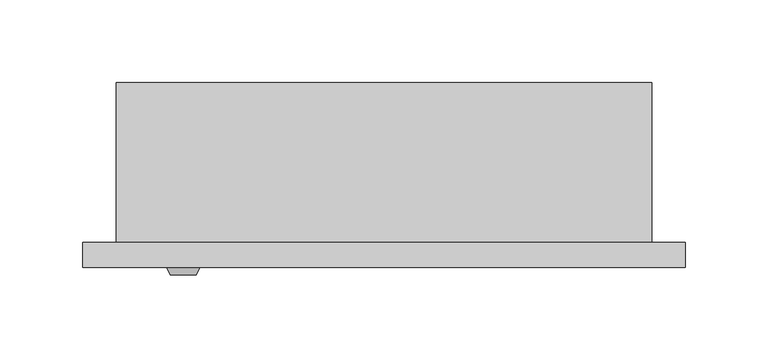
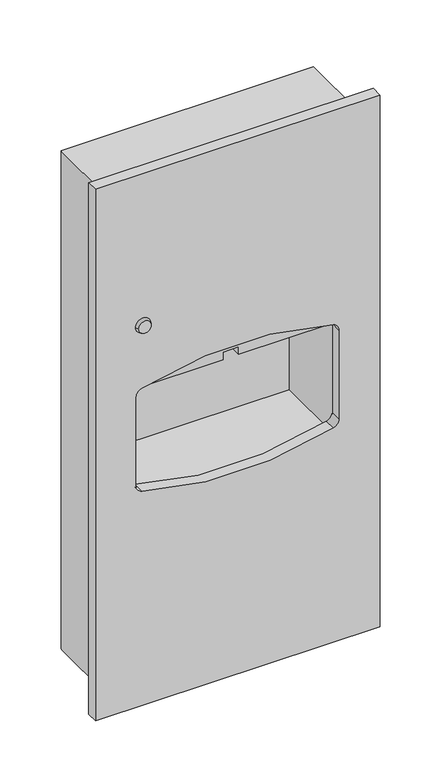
"""IFC4 building model written with IfcOpenShell, lengths in millimetres: proxy geometry, Paper Dispenser and Waste_Metlam_Recessed_6.5L Waste : 365w x 112d x 720h (ML710_RECMK2)."""

from ifc_helpers import new_model, si_unit, point, frame, frame_2d, origin, place, context, project, spatial, polyline, circle_curve, trimmed, segment, composite_curve, outline, extrude, faceted_brep, source, transform, mapped, element, save
from ifc_brep_helpers import plane_surface, revolved_surface, advanced_brep


def specialty_equipment_7ed3570a(model_context):
    return source(origin(), model_context, "Body", "SolidModel", [
        extrude(outline(polyline([(1379.1, 131.6), (1379.1, -131.6), (1200.9, -131.6), (1200.9, 131.6), (1379.1, 131.6)]), holes=[polyline([(1377.5, 130.0), (1202.5, 130.0), (1202.5, -130.0), (1377.5, -130.0), (1377.5, 130.0)])]), frame((0.0, -97.0, 0.0), z_axis=(0.0, 1.0, 0.0), x_axis=(0.0, 0.0, 1.0)), (0.0, 0.0, 1.0), 95.0),
        extrude(outline(polyline([(1377.5, 130.0), (1377.5, -130.0), (1350.1002962, -130.0), (1350.1002962, -10.0), (1360.1002962, -10.0), (1360.1002962, 10.0), (1350.1002962, 10.0), (1350.1002962, 130.0), (1377.5, 130.0)])), frame((0.0, -97.0, 0.0), z_axis=(0.0, 1.0, 0.0), x_axis=(0.0, 0.0, 1.0)), (0.0, 0.0, 1.0), 15.0),
        extrude(outline(polyline([(930.0, 182.5), (1650.0, 182.5), (1650.0, -182.5), (930.0, -182.5), (930.0, 182.5)]), holes=[composite_curve([segment(trimmed(circle_curve(frame_2d((1350.1002962, 120.0)), 10.0), [point((1359.6884689, 122.8402367))], [point((1350.1002962, 130.0))], True, "CARTESIAN"), True, "CONTINUOUS"), segment(polyline([(1350.1002962, 130.0), (1229.8997038, 130.0)]), True, "CONTINUOUS"), segment(trimmed(circle_curve(frame_2d((1229.8997038, 120.0)), 10.0), [point((1229.8997038, 130.0))], [point((1220.3115311, 122.8402367))], True, "CARTESIAN"), True, "CONTINUOUS"), segment(trimmed(circle_curve(frame_2d((1635.0, 0.0)), 432.5), [point((1220.3115311, 122.8402367))], [point((1220.3115311, -122.8402367))], True, "CARTESIAN"), True, "CONTINUOUS"), segment(trimmed(circle_curve(frame_2d((1229.8997038, -120.0)), 10.0), [point((1220.3115311, -122.8402367))], [point((1229.8997038, -130.0))], True, "CARTESIAN"), True, "CONTINUOUS"), segment(polyline([(1229.8997038, -130.0), (1350.1002962, -130.0)]), True, "CONTINUOUS"), segment(trimmed(circle_curve(frame_2d((1350.1002962, -120.0)), 10.0), [point((1350.1002962, -130.0))], [point((1359.6884689, -122.8402367))], True, "CARTESIAN"), True, "CONTINUOUS"), segment(trimmed(circle_curve(frame_2d((945.0, 0.0)), 432.5), [point((1359.6884689, -122.8402367))], [point((1359.6884689, 122.8402367))], True, "CARTESIAN"), True, "CONTINUOUS")], self_intersect=False)]), frame((0.0, -112.0, 0.0), z_axis=(0.0, 1.0, 0.0), x_axis=(0.0, 0.0, 1.0)), (0.0, 0.0, 1.0), 15.0),
        faceted_brep([(-162.0, -97.0, 1627.5), (-162.0, -97.0, 952.5), (162.0, -97.0, 952.5), (162.0, -97.0, 1627.5), (-160.0, -97.0, 1625.5), (160.0, -97.0, 1625.5), (160.0, -97.0, 954.5), (-160.0, -97.0, 954.5), (-162.0, 0.0, 1627.5), (162.0, 0.0, 1627.5), (162.0, 0.0, 952.5), (-162.0, 0.0, 952.5), (-162.0, -2.0, 1627.5), (-162.0, -2.0, 952.5), (162.0, -2.0, 952.5), (162.0, -2.0, 1627.5), (-160.0, -2.0, 1625.5), (160.0, -2.0, 1625.5), (160.0, -2.0, 954.5), (-160.0, -2.0, 954.5)], [[[0, 1, 2, 3], [4, 5, 6, 7]], [[8, 9, 10, 11]], [[1, 0, 12, 8, 11, 13]], [[2, 1, 13, 11, 10, 14]], [[3, 2, 14, 10, 9, 15]], [[0, 3, 15, 9, 8, 12]], [[5, 4, 16, 17]], [[6, 5, 17, 18]], [[7, 6, 18, 19]], [[4, 7, 19, 16]], [[17, 16, 19, 18]]]),
        advanced_brep(
        [(-129.5369825, -116.649141, 1445.0972849), (-113.5369825, -116.649141, 1445.0972849), (-131.5369825, -112.0, 1445.0972849), (-111.5369825, -112.0, 1445.0972849)],
        [
            (0, 1, circle_curve(frame((-121.5369825, -116.649141, 1445.0972849), z_axis=(0.0, -1.0, 0.0), x_axis=(-1.0, 0.0, 0.0)), 8.0)),
            (1, 0, circle_curve(frame((-121.5369825, -116.649141, 1445.0972849), z_axis=(0.0, -1.0, 0.0), x_axis=(1.0, 0.0, 0.0)), 8.0)),
            (2, 3, circle_curve(frame((-121.5369825, -112.0, 1445.0972849), z_axis=(0.0, 1.0, 0.0), x_axis=(1.0, 0.0, 0.0)), 10.0)),
            (3, 2, circle_curve(frame((-121.5369825, -112.0, 1445.0972849), z_axis=(0.0, 1.0, 0.0), x_axis=(-1.0, 0.0, 0.0)), 10.0)),
            (3, 1),
            (0, 2),
        ],
        [
            plane_surface(frame((-121.5369825, -116.649141, 1445.0972849), z_axis=(0.0, -1.0, 0.0), x_axis=(0.0, 0.0, -1.0))),
            plane_surface(frame((-121.5369825, -112.0, 1445.0972849), z_axis=(0.0, 1.0, 0.0), x_axis=(0.0, 0.0, -1.0))),
            revolved_surface(polyline([(-129.53698248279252, -116.649141, 1445.0972849), (-131.5369825, -112.0, 1445.0972849)]), (-121.5369825, -135.2457048, 1445.0972849), (0.0, 1.0, 0.0)),
            revolved_surface(polyline([(-113.53698251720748, -116.649141, 1445.0972849), (-111.5369825, -112.0, 1445.0972849)]), (-121.5369825, -135.2457048, 1445.0972849), (0.0, 1.0, 0.0)),
        ],
        [
            (0, [[1, 2]]),
            (1, [[3, 4]]),
            (2, [[-4, 5, -1, 6]]),
            (3, [[-3, -6, -2, -5]]),
        ],
    ),
    ])


if __name__ == "__main__":
    model = new_model("IFC4")
    model_context = context("Model", 3, world=origin())
    ifc_project = project(units=[si_unit("LENGTHUNIT", "METRE", prefix="MILLI")], contexts=[model_context])
    site = spatial("IfcSite", under=ifc_project)
    building = spatial("IfcBuilding", under=site)
    placement = place(None, origin())
    specialty_equipment_shape = specialty_equipment_7ed3570a(model_context)
    element("IfcBuildingElementProxy", 1, Name="Paper Dispenser and Waste_Metlam_Recessed_6.5L Waste : 365w x 112d x 720h (ML710_RECMK2)", ObjectType="Paper Dispenser and Waste_Metlam_Recessed_6.5L Waste : 365w x 112d x 720h (ML710_RECMK2)", at=placement, inside=building, context=model_context, shape_type="MappedRepresentation", body=[
        mapped(specialty_equipment_shape, transform((0.0, 0.0, 0.0), x_axis=(1.0, 0.0, 0.0), y_axis=(0.0, 1.0, 0.0), z_axis=(0.0, 0.0, 1.0))),
    ])
    save(model, "model.ifc")
